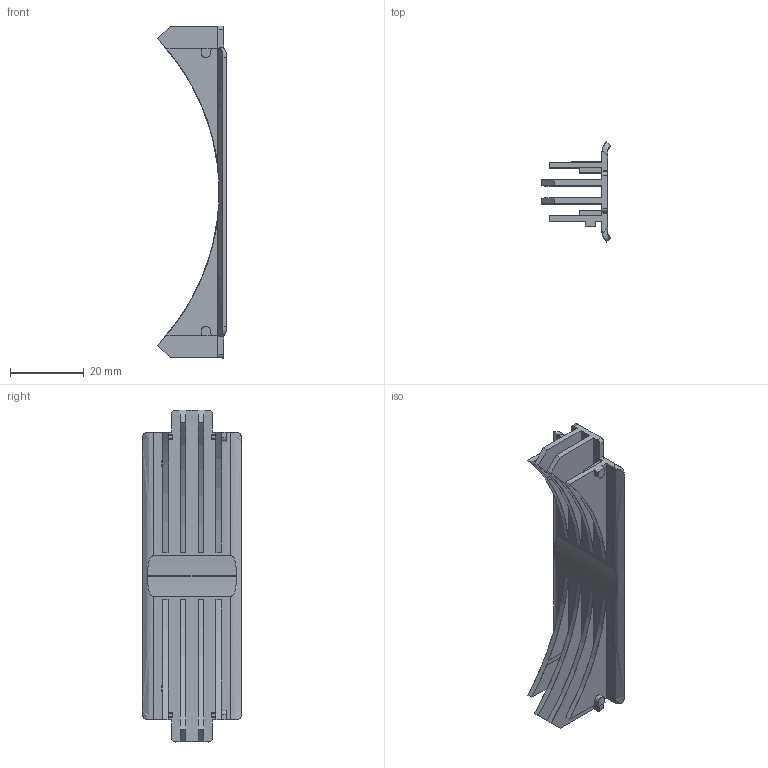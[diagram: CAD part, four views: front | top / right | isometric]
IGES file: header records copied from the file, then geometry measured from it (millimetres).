
Start section: SolidWorks IGES file using analytic representation for surfaces
Global section: file name: D:\OneDrive - Crafterwork\Deepcool\6. Fan\FAN 183 FX30 MACH\湖荂恅璃\120 Glossy_IGS.IGS; native system: SolidWorks 2020; preprocessor: SolidWorks 2020; author: Admin; date: 250224.102450; units: millimetre
Bounding box: 18.68 x 27 x 90 mm (x, y, z)
Surface area: 8411.9 mm2 (no closed solid volume)
Topology: 0 solids, 0 shells, 103 faces, 1047 edges, 1046 vertices
Faces by surface type: bspline 81, revolution 22
